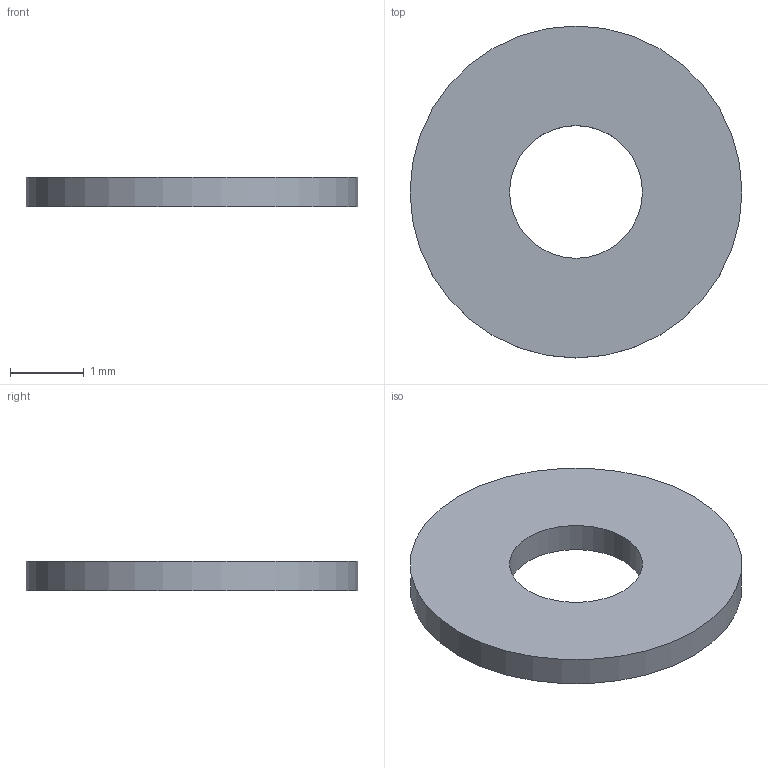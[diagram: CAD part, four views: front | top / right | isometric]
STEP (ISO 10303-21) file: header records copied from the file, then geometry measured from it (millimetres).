
FILE_DESCRIPTION(('Open CASCADE Model'),'2;1');
FILE_NAME('Open CASCADE Shape Model','2026-09-24T17:42:54',('Author'),( 'Open CASCADE'),'Open CASCADE STEP processor 7.8','Open CASCADE 7.8' ,'Unknown');
FILE_SCHEMA(('AUTOMOTIVE_DESIGN { 1 0 10303 214 1 1 1 1 }'));
Length unit declared in the file: millimetre
Products named in the file (1): Open CASCADE STEP translator 7.8 52
Bounding box: 4.5 x 4.5 x 0.4 mm (x, y, z)
Volume: 5.3 mm3; surface area: 34.6 mm2
Topology: 1 solids, 1 shells, 4 faces, 6 edges, 4 vertices
Faces by surface type: cylinder 2, plane 2
Full cylindrical faces by diameter (mm): 1.8 x1, 4.5 x1
Entity records: 186 total; most frequent: DIRECTION 32, CARTESIAN_POINT 27, ORIENTED_EDGE 12, PCURVE 12, DEFINITIONAL_REPRESENTATION 12, LINE 10, VECTOR 10, AXIS2_PLACEMENT_3D 9
